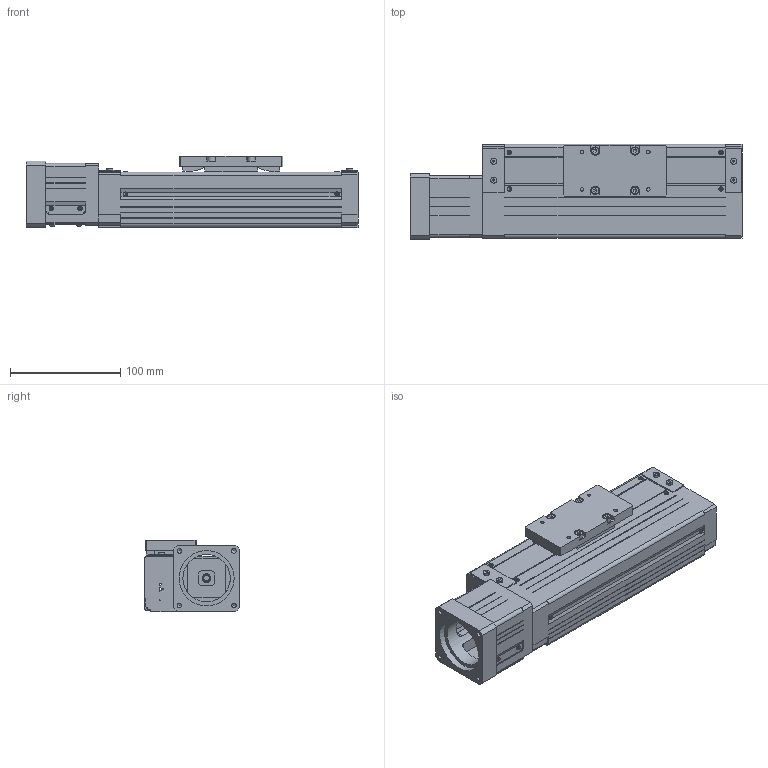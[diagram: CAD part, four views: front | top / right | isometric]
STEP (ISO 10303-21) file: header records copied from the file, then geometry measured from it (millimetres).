
FILE_DESCRIPTION((''),'2;1');
FILE_NAME('D:\製品 (図面)\カタログ用3D\SU部品\SU85×65\ダウンロード用\SU85×65-MB60\SU85×65-100-MB60.stp','2011-07-01T17:31:55',('Tsuchiya'),(''),'Autodesk Inventor 10','Autodesk Inventor 10','');
FILE_SCHEMA(('AUTOMOTIVE_DESIGN { 1 0 10303 214 1 1 1 1 }'));
Length unit declared in the file: millimetre
Products named in the file (3): SU85×65-100-MB60; SU85×65-100-MB601; SU85×65-100-MB602
Assembly tree (2 placements, depth 2):
  SU85×65-100-MB60
    SU85×65-100-MB601
    SU85×65-100-MB602
Bounding box: 301 x 86.45 x 65 mm (x, y, z)
Volume: 656709.2 mm3; surface area: 198431.9 mm2
Topology: 8 solids, 8 shells, 829 faces, 2202 edges, 1426 vertices
Faces by surface type: plane 699, cylinder 96, cone 18, torus 12, bspline 4
Full cylindrical faces by diameter (mm): 3.242 x4, 4 x4, 4.134 x8, 4.5 x4, 5.5 x4, 6 x1, 7 x4, 8 x1, 11.5 x1, 12 x1, 13 x1, 43 x1, 50 x1
Entity records: 25462 total; most frequent: CARTESIAN_POINT 5139, ORIENTED_EDGE 4206, DIRECTION 3976, EDGE_CURVE 2103, VECTOR 1714, LINE 1714, VERTEX_POINT 1396, AXIS2_PLACEMENT_3D 1131
